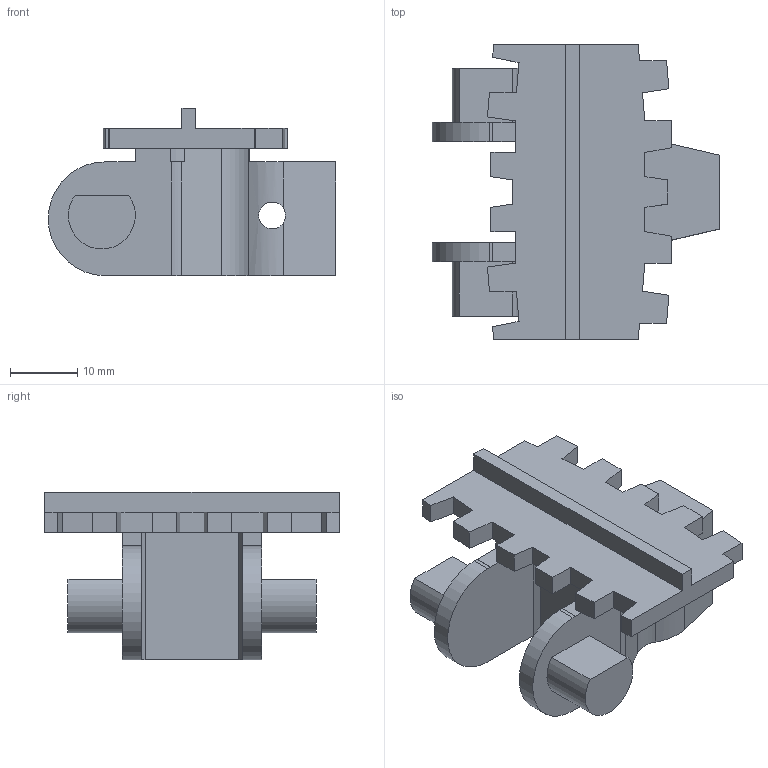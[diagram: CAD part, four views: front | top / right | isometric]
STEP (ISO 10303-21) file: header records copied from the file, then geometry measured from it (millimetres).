
FILE_DESCRIPTION (( 'STEP AP214' ), '1' );
FILE_NAME ('FKTF 5x3G-P.STEP', '2011-09-28T07:00:43', ( '.' ), ( '' ), 'SwSTEP 2.0', 'SolidWorks 2010', '' );
FILE_SCHEMA (( 'AUTOMOTIVE_DESIGN' ));
Length unit declared in the file: millimetre
Products named in the file (1): FKTF 5x3G-P
Bounding box: 42.9 x 44 x 25 mm (x, y, z)
Volume: 12098.8 mm3; surface area: 6696.6 mm2
Topology: 1 solids, 1 shells, 96 faces, 279 edges, 186 vertices
Faces by surface type: plane 79, cylinder 17
Entity records: 3253 total; most frequent: CARTESIAN_POINT 660, ORIENTED_EDGE 558, DIRECTION 497, EDGE_CURVE 279, VECTOR 239, LINE 239, VERTEX_POINT 186, AXIS2_PLACEMENT_3D 129
